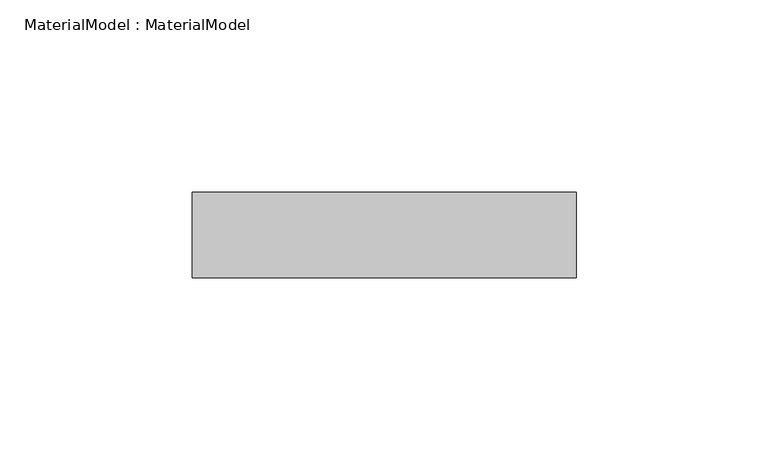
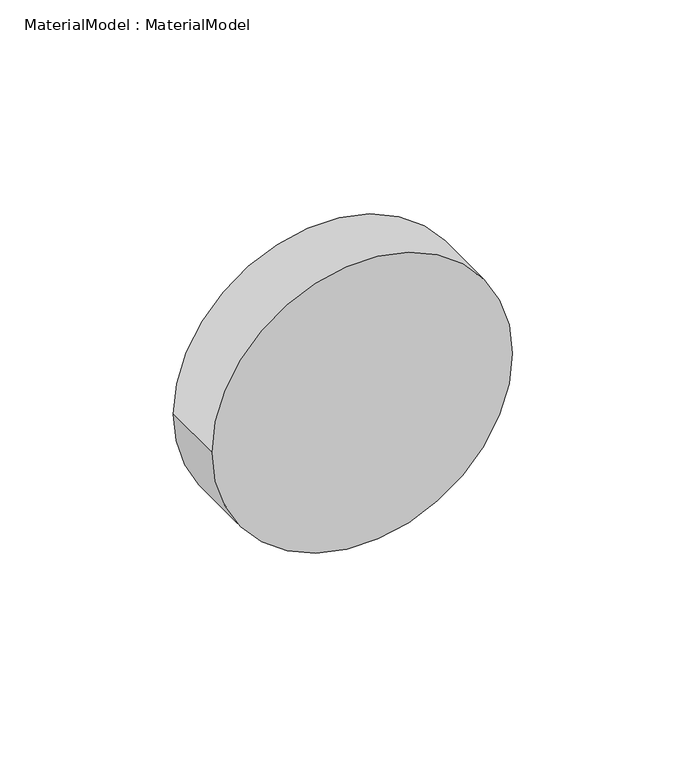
"""IFC4 building model written with IfcOpenShell, lengths in millimetres: proxy geometry, MaterialModel : MaterialModel."""

import ifcopenshell
import ifcopenshell.guid

model = None  # the IFC model being written
_history = None  # IfcOwnerHistory: only IFC2X3 demands one
_inside = {}  # id of a spatial element -> (the spatial element, [elements in it])
_under = {}  # id of a project, library or spatial element -> (it, [spatial elements below it])
_declared = {}  # id of a project -> (the project, [libraries it declares])
_typed = {}  # id of a type object -> (the type object, [elements of that type])
_made_of = {}  # id of a material, layer set ... -> (it, [elements and type objects made of it])


def new_model(schema):
    """Start an empty IFC model of exactly this schema.

    Asked for "IFC4X3", IfcOpenShell would pick the latest addendum, in which some entities
    have other attributes; the version numbers below select the first issue.
    IFC2X3 requires an IfcOwnerHistory on every rooted entity: one is made here for all.
    """
    global model, _history
    if schema == "IFC4X3":
        model = ifcopenshell.file(schema_version=(4, 3, 0, 0))
    else:
        model = ifcopenshell.file(schema=schema)
    _inside.clear()
    _under.clear()
    _declared.clear()
    _typed.clear()
    _made_of.clear()
    _history = None
    if model.schema == "IFC2X3":
        org = make("IfcOrganization", Name="unknown")
        user = make(
            "IfcPersonAndOrganization",
            ThePerson=make("IfcPerson", FamilyName="unknown"),
            TheOrganization=org,
        )
        app = make(
            "IfcApplication",
            ApplicationDeveloper=org,
            Version="unknown",
            ApplicationFullName="unknown",
            ApplicationIdentifier="unknown",
        )
        _history = make(
            "IfcOwnerHistory",
            OwningUser=user,
            OwningApplication=app,
            ChangeAction="ADDED",
            CreationDate=0,
        )
    return model


def make(cls, **values):
    """One entity of the class cls with the attributes given. An attribute that is None is left unset."""
    return model.create_entity(
        cls, **{name: value for name, value in values.items() if value is not None}
    )


def rooted(cls, **values):
    """An entity with a GlobalId (a new one), such as an element, a storey or a relation."""
    return make(cls, GlobalId=ifcopenshell.guid.new(), OwnerHistory=_history, **values)


def si_unit(unit_type, name, prefix=None):
    """IfcSIUnit, for example si_unit("LENGTHUNIT", "METRE", prefix="MILLI")."""
    return make("IfcSIUnit", UnitType=unit_type, Prefix=prefix, Name=name)


def assignment(units):
    """IfcUnitAssignment: the units of a project."""
    return None if units is None else make("IfcUnitAssignment", Units=units)


def point(xyz):
    """IfcCartesianPoint."""
    return None if xyz is None else make("IfcCartesianPoint", Coordinates=xyz)


def direction(xyz):
    """IfcDirection."""
    return None if xyz is None else make("IfcDirection", DirectionRatios=xyz)


def frame(location, z_axis=None, x_axis=None):
    """IfcAxis2Placement3D, a coordinate frame: its origin and axes. An axis left out is left unset."""
    return make(
        "IfcAxis2Placement3D",
        Location=point(location),
        Axis=direction(z_axis),
        RefDirection=direction(x_axis),
    )


def frame_2d(location, x_axis=None):
    """IfcAxis2Placement2D, a coordinate frame in the plane: its origin and x axis."""
    return make(
        "IfcAxis2Placement2D", Location=point(location), RefDirection=direction(x_axis)
    )


def origin():
    """The frame at (0, 0, 0) with its axes left unset."""
    return frame((0.0, 0.0, 0.0))


def place(relative_to, where):
    """IfcLocalPlacement: puts the frame where relative to a parent placement (None: the world)."""
    return make(
        "IfcLocalPlacement", PlacementRelTo=relative_to, RelativePlacement=where
    )


def context(
    kind, dimensions, precision=None, world=None, true_north=None, identifier=None
):
    """IfcGeometricRepresentationContext, for example the 3D "Model" context."""
    return make(
        "IfcGeometricRepresentationContext",
        ContextIdentifier=identifier,
        ContextType=kind,
        CoordinateSpaceDimension=dimensions,
        Precision=precision,
        WorldCoordinateSystem=world,
        TrueNorth=true_north,
    )


def project(units=None, contexts=None):
    """IfcProject with its units and contexts."""
    return rooted(
        "IfcProject",
        Name="project",
        RepresentationContexts=contexts,
        UnitsInContext=assignment(units),
    )


def spatial(cls, under=None, at=None, **own):
    """A site, building, storey or space (cls), placed at a placement, below another one or the project."""
    s = rooted(cls, ObjectPlacement=at, **own)
    if under is not None:
        _under.setdefault(under.id(), (under, []))[1].append(s)
    return s


def circle_curve(where, radius):
    """IfcCircle in the frame where."""
    return make("IfcCircle", Position=where, Radius=radius)


def trimmed(basis, trim1, trim2, sense, master):
    """IfcTrimmedCurve: the piece of a basis curve between two trims."""
    return make(
        "IfcTrimmedCurve",
        BasisCurve=basis,
        Trim1=trim1,
        Trim2=trim2,
        SenseAgreement=sense,
        MasterRepresentation=master,
    )


def segment(curve, same_sense, transition):
    """IfcCompositeCurveSegment."""
    return make(
        "IfcCompositeCurveSegment",
        Transition=transition,
        SameSense=same_sense,
        ParentCurve=curve,
    )


def composite_curve(segments, self_intersect=None):
    """IfcCompositeCurve: segments joined end to end."""
    return make("IfcCompositeCurve", Segments=segments, SelfIntersect=self_intersect)


def outline(outer, holes=None, kind="AREA"):
    """IfcArbitraryClosedProfileDef: a profile drawn as a closed curve; with holes, ...WithVoids."""
    if holes is None:
        return make("IfcArbitraryClosedProfileDef", ProfileType=kind, OuterCurve=outer)
    return make(
        "IfcArbitraryProfileDefWithVoids",
        ProfileType=kind,
        OuterCurve=outer,
        InnerCurves=holes,
    )


def extrude(swept, where, along, depth):
    """IfcExtrudedAreaSolid: the profile swept, set in the frame where, extruded along a direction by depth."""
    return make(
        "IfcExtrudedAreaSolid",
        SweptArea=swept,
        Position=where,
        ExtrudedDirection=direction(along),
        Depth=depth,
    )


def shape(context_of_items, identifier, shape_type, items):
    """IfcShapeRepresentation: the items that make up one representation, for example the "Body"."""
    return make(
        "IfcShapeRepresentation",
        ContextOfItems=context_of_items,
        RepresentationIdentifier=identifier,
        RepresentationType=shape_type,
        Items=items,
    )


def source(mapping_origin, context_of_items, identifier, shape_type, items):
    """IfcRepresentationMap: a shape defined once, which mapped items show again and again."""
    return make(
        "IfcRepresentationMap",
        MappingOrigin=mapping_origin,
        MappedRepresentation=shape(context_of_items, identifier, shape_type, items),
    )


def transform(
    local_origin,
    x_axis=None,
    y_axis=None,
    z_axis=None,
    scale=None,
    scale2=None,
    scale3=None,
    uniform=True,
):
    """IfcCartesianTransformationOperator3D, or its non-uniform kind. x_axis, y_axis, z_axis: its Axis1, 2, 3."""
    if uniform:
        return make(
            "IfcCartesianTransformationOperator3D",
            Axis1=direction(x_axis),
            Axis2=direction(y_axis),
            LocalOrigin=point(local_origin),
            Scale=scale,
            Axis3=direction(z_axis),
        )
    return make(
        "IfcCartesianTransformationOperator3DnonUniform",
        Axis1=direction(x_axis),
        Axis2=direction(y_axis),
        LocalOrigin=point(local_origin),
        Scale=scale,
        Axis3=direction(z_axis),
        Scale2=scale2,
        Scale3=scale3,
    )


def mapped(mapping_source, mapping_target):
    """IfcMappedItem: shows the shape of a source again, moved by a transform."""
    return make(
        "IfcMappedItem", MappingSource=mapping_source, MappingTarget=mapping_target
    )


def made_of(thing, what):
    """Note that an element or type object is made of a material, layer set ...; save() writes the relation."""
    if what is not None:
        _made_of.setdefault(what.id(), (what, []))[1].append(thing)
    return thing


def element(
    cls,
    number,
    at=None,
    inside=None,
    cuts=None,
    type_object=None,
    material=None,
    context=None,
    identifier="Body",
    shape_type=None,
    held_by="IfcProductDefinitionShape",
    body=None,
    shapes=None,
    **own,
):
    """One element of the class cls, such as IfcWall. Its Tag is "e" and its number.

    at: its placement. inside: the storey or other place that contains it. cuts: it is an
    opening in that element (IfcRelVoidsElement). A single representation is given by context,
    identifier, shape_type and body (its items); several are given by shapes. held_by: the class
    of the entity that holds the representations. save() writes the other relations.
    """
    e = rooted(cls, Tag="e%d" % number, ObjectPlacement=at, **own)
    if body is not None:
        shapes = [shape(context, identifier, shape_type, body)]
    if shapes is not None:
        e.Representation = make(held_by, Representations=shapes)
    if inside is not None:
        _inside.setdefault(inside.id(), (inside, []))[1].append(e)
    if cuts is not None:
        rooted(
            "IfcRelVoidsElement", RelatingBuildingElement=cuts, RelatedOpeningElement=e
        )
    if type_object is not None:
        _typed.setdefault(type_object.id(), (type_object, []))[1].append(e)
    return made_of(e, material)


def aggregate(whole, parts):
    """IfcRelAggregates: a whole, such as a stair, and the parts it consists of."""
    return rooted("IfcRelAggregates", RelatingObject=whole, RelatedObjects=parts)


def save(model, path):
    """Write the relations noted so far, then the file.

    IfcRelAggregates (storeys below a building ...), IfcRelContainedInSpatialStructure (elements
    in a storey), IfcRelDefinesByType, IfcRelAssociatesMaterial and IfcRelDeclares: one each for
    every whole, place, type object, material and project.
    """
    for whole, parts in _under.values():
        aggregate(whole, parts)
    for where, things in _inside.values():
        rooted(
            "IfcRelContainedInSpatialStructure",
            RelatedElements=things,
            RelatingStructure=where,
        )
    for kind, things in _typed.values():
        rooted("IfcRelDefinesByType", RelatedObjects=things, RelatingType=kind)
    for what, things in _made_of.values():
        rooted("IfcRelAssociatesMaterial", RelatedObjects=things, RelatingMaterial=what)
    for by, libraries in _declared.values():
        rooted("IfcRelDeclares", RelatingContext=by, RelatedDefinitions=libraries)
    model.write(path)


def materialmodel_materialmodel_aa49be07(model_context):
    return source(origin(), model_context, "Body", "SweptSolid", [
        extrude(outline(composite_curve([segment(trimmed(circle_curve(frame_2d((11.1540194, 0.0)), 50.0), [point((11.1540194, -50.0))], [point((11.1540194, 50.0))], False, "CARTESIAN"), True, "CONTINUOUS"), segment(trimmed(circle_curve(frame_2d((11.1540194, 0.0)), 50.0), [point((11.1540194, 50.0))], [point((11.1540194, -50.0))], False, "CARTESIAN"), True, "CONTINUOUS")], self_intersect=False)), frame((0.0, -11.1540194, 0.0), z_axis=(0.0, 1.0, 0.0), x_axis=(0.0, 0.0, 1.0)), (0.0, 0.0, 1.0), 22.3080387),
    ])


if __name__ == "__main__":
    model = new_model("IFC4")
    model_context = context("Model", 3, world=origin())
    ifc_project = project(units=[si_unit("LENGTHUNIT", "METRE", prefix="MILLI")], contexts=[model_context])
    site = spatial("IfcSite", under=ifc_project)
    building = spatial("IfcBuilding", under=site)
    placement = place(None, origin())
    materialmodel_materialmodel_shape = materialmodel_materialmodel_aa49be07(model_context)
    element("IfcBuildingElementProxy", 1, Name="MaterialModel : MaterialModel", ObjectType="MaterialModel : MaterialModel", at=placement, inside=building, context=model_context, shape_type="MappedRepresentation", body=[
        mapped(materialmodel_materialmodel_shape, transform((0.0, 0.0, 0.0), x_axis=(1.0, 0.0, 0.0), y_axis=(0.0, 1.0, 0.0), z_axis=(0.0, 0.0, 1.0))),
    ])
    save(model, "model.ifc")
